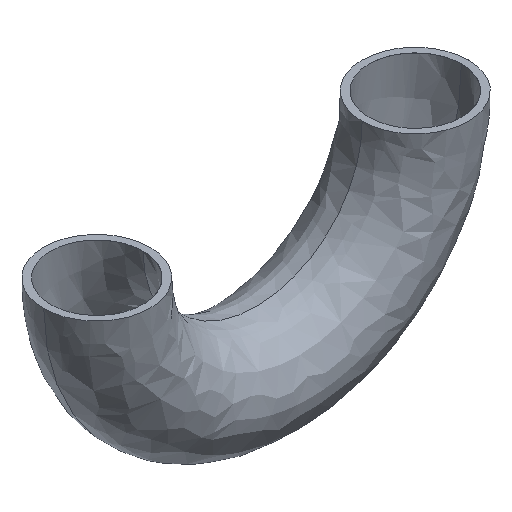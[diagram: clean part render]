
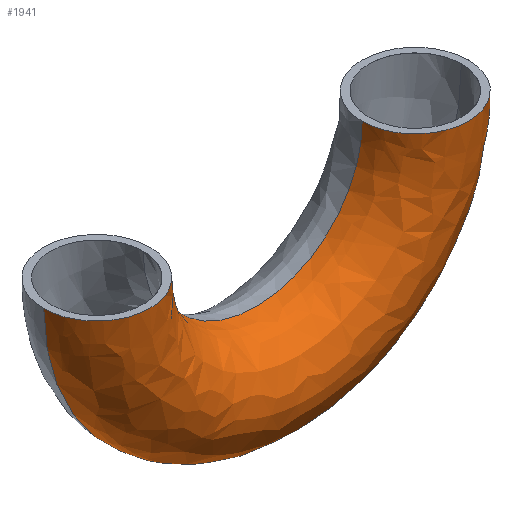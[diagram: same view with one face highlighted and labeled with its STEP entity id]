
A CAD part, isometric view. The second image highlights one B-rep face of the part: STEP entity #1941.
In plain terms, the highlighted free-form (B-spline) face has degree [3, 3] with [4, 4] control points.
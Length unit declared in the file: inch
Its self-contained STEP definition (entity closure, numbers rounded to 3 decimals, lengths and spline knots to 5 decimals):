
#38 = CARTESIAN_POINT ( 'NONE',  ( -0.5, 0., 0. ) ) ;
#62 = ORIENTED_EDGE ( 'NONE', *, *, #923, .T. ) ;
#164 = CARTESIAN_POINT ( 'NONE',  ( -2.49988, 0., -0.02685 ) ) ;
#187 = VERTEX_POINT ( 'NONE', #164 ) ;
#221 = VERTEX_POINT ( 'NONE', #438 ) ;
#305 = CARTESIAN_POINT ( 'NONE',  ( -2.47303, -1., -2.02673 ) ) ;
#438 = CARTESIAN_POINT ( 'NONE',  ( -3.49988, 0., -0.02685 ) ) ;
#534 = CARTESIAN_POINT ( 'NONE',  ( -1.49994, 0., -0.01343 ) ) ;
#553 = CARTESIAN_POINT ( 'NONE',  ( -0.5, -1., 0. ) ) ;
#626 = DIRECTION ( 'NONE',  ( 0., 0., -1. ) ) ;
#678 = AXIS2_PLACEMENT_3D ( 'NONE', #897, #2623, #1149 ) ;
#739 = ORIENTED_EDGE ( 'NONE', *, *, #1398, .F. ) ;
#788 = DIRECTION ( 'NONE',  ( -1., 0., -0.007 ) ) ;
#811 = CARTESIAN_POINT ( 'NONE',  ( -3.47303, -1., -4.02673 ) ) ;
#897 = CARTESIAN_POINT ( 'NONE',  ( 0., 0., 0. ) ) ;
#923 = EDGE_CURVE ( 'NONE', #221, #1873, #2530, .T. ) ;
#976 = EDGE_LOOP ( 'NONE', ( #2756, #2831, #62, #739 ) ) ;
#1025 = EDGE_CURVE ( 'NONE', #187, #1400, #1881, .T. ) ;
#1065 = CARTESIAN_POINT ( 'NONE',  ( 0.5, -1., 0. ) ) ;
#1149 = DIRECTION ( 'NONE',  ( 1., 0., 0. ) ) ;
#1156 = EDGE_CURVE ( 'NONE', #187, #221, #2760, .T. ) ;
#1301 = CARTESIAN_POINT ( 'NONE',  ( 0.5, 0., 0. ) ) ;
#1312 = CARTESIAN_POINT ( 'NONE',  ( -3.47303, 0., -4.02673 ) ) ;
#1372 = CARTESIAN_POINT ( 'NONE',  ( -1.49994, 0., -0.01343 ) ) ;
#1398 = EDGE_CURVE ( 'NONE', #1400, #1873, #2039, .T. ) ;
#1400 = VERTEX_POINT ( 'NONE', #2601 ) ;
#1486 = AXIS2_PLACEMENT_3D ( 'NONE', #2135, #626, #2372 ) ;
#1552 = AXIS2_PLACEMENT_3D ( 'NONE', #1372, #3089, #1627 ) ;
#1556 = CARTESIAN_POINT ( 'NONE',  ( -0.47315, 0., -1.99988 ) ) ;
#1565 = CARTESIAN_POINT ( 'NONE',  ( 0.5, 0., 0. ) ) ;
#1627 = DIRECTION ( 'NONE',  ( -1., 0., -0.013 ) ) ;
#1688 = AXIS2_PLACEMENT_3D ( 'NONE', #534, #2286, #788 ) ;
#1806 = CARTESIAN_POINT ( 'NONE',  ( -2.49988, -1., -0.02685 ) ) ;
#1873 = VERTEX_POINT ( 'NONE', #1301 ) ;
#1881 = CIRCLE ( 'NONE', #1552, 1.00003 ) ;
#1941 = ADVANCED_FACE ( 'NONE', ( #1959 ), #2473, .T. ) ;
#1959 = FACE_OUTER_BOUND ( 'NONE', #976, .T. ) ;
#2039 = CIRCLE ( 'NONE', #678, 0.5 ) ;
#2058 = CARTESIAN_POINT ( 'NONE',  ( -0.47315, -1., -1.99988 ) ) ;
#2135 = CARTESIAN_POINT ( 'NONE',  ( -2.99988, 0., -0.02685 ) ) ;
#2286 = DIRECTION ( 'NONE',  ( 0., -1., 0. ) ) ;
#2305 = CARTESIAN_POINT ( 'NONE',  ( -3.49988, -1., -0.02685 ) ) ;
#2372 = DIRECTION ( 'NONE',  ( -1., 0., 0. ) ) ;
#2473 =( BOUNDED_SURFACE ( )  B_SPLINE_SURFACE ( 3, 3, ( 
 ( #3023, #3003, #1556, #38 ),
 ( #1806, #305, #2058, #553 ),
 ( #2305, #811, #2543, #1065 ),
 ( #2791, #1312, #3033, #1565 ) ),
 .UNSPECIFIED., .F., .F., .T. ) 
 B_SPLINE_SURFACE_WITH_KNOTS ( ( 4, 4 ),
 ( 4, 4 ),
 ( 0., 1. ),
 ( 0., 1. ),
 .UNSPECIFIED. ) 
 GEOMETRIC_REPRESENTATION_ITEM ( )  RATIONAL_B_SPLINE_SURFACE ( (
 ( 1., 0.333, 0.333, 1.),
 ( 0.333, 0.111, 0.111, 0.333),
 ( 0.333, 0.111, 0.111, 0.333),
 ( 1., 0.333, 0.333, 1.) ) ) 
 REPRESENTATION_ITEM ( '' )  SURFACE ( )  );
#2530 = CIRCLE ( 'NONE', #1688, 1.99998 ) ;
#2543 = CARTESIAN_POINT ( 'NONE',  ( 0.52685, -1., -3.99988 ) ) ;
#2601 = CARTESIAN_POINT ( 'NONE',  ( -0.5, 0., 0. ) ) ;
#2623 = DIRECTION ( 'NONE',  ( 0., 0., 1. ) ) ;
#2756 = ORIENTED_EDGE ( 'NONE', *, *, #1025, .F. ) ;
#2760 = CIRCLE ( 'NONE', #1486, 0.5 ) ;
#2791 = CARTESIAN_POINT ( 'NONE',  ( -3.49988, 0., -0.02685 ) ) ;
#2831 = ORIENTED_EDGE ( 'NONE', *, *, #1156, .T. ) ;
#3003 = CARTESIAN_POINT ( 'NONE',  ( -2.47303, 0., -2.02673 ) ) ;
#3023 = CARTESIAN_POINT ( 'NONE',  ( -2.49988, 0., -0.02685 ) ) ;
#3033 = CARTESIAN_POINT ( 'NONE',  ( 0.52685, 0., -3.99988 ) ) ;
#3089 = DIRECTION ( 'NONE',  ( 0., -1., 0. ) ) ;
